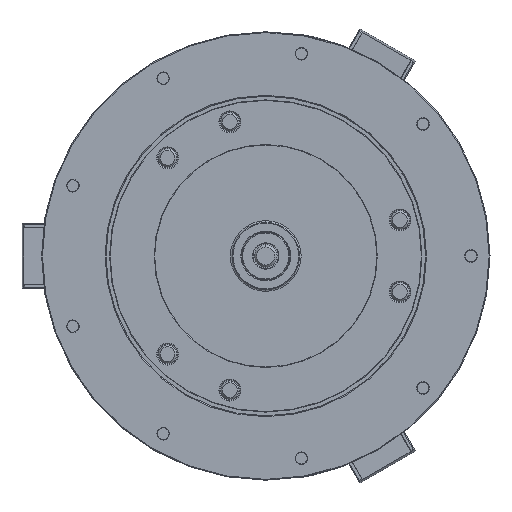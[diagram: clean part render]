
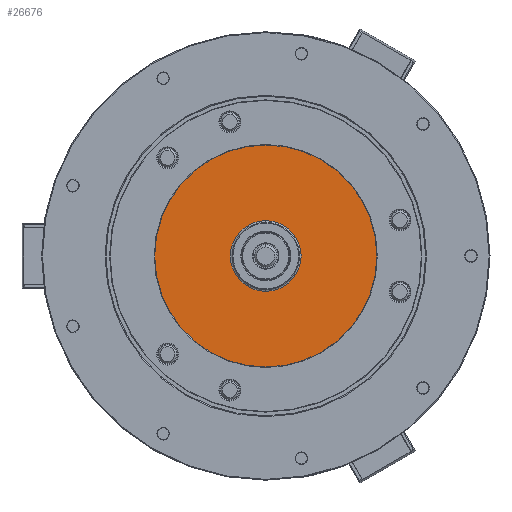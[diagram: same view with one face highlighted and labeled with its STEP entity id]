
A CAD part, left-side view. The second image highlights one B-rep face of the part: STEP entity #26676.
In plain terms, the highlighted planar face has unit normal (-1, 0, 0).
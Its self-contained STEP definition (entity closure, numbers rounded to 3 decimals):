
#5478 = FACE_BOUND ( 'NONE', #36884, .T. ) ;
#13541 = CIRCLE ( 'NONE', #75408, 132. ) ;
#13950 = DIRECTION ( 'NONE',  ( 0., 0., -1. ) ) ;
#14689 = EDGE_CURVE ( 'NONE', #31009, #15819, #63132, .T. ) ;
#15819 = VERTEX_POINT ( 'NONE', #79338 ) ;
#18686 = ORIENTED_EDGE ( 'NONE', *, *, #85949, .T. ) ;
#19342 = DIRECTION ( 'NONE',  ( 0., 0., -1. ) ) ;
#23620 = CARTESIAN_POINT ( 'NONE',  ( -111.5, 0., 0. ) ) ;
#24239 = CARTESIAN_POINT ( 'NONE',  ( -111.5, -42., 0. ) ) ;
#26025 = CARTESIAN_POINT ( 'NONE',  ( -111.5, 0., 0. ) ) ;
#26676 = ADVANCED_FACE ( 'NONE', ( #48751, #5478 ), #41350, .F. ) ;
#31009 = VERTEX_POINT ( 'NONE', #54122 ) ;
#32788 = DIRECTION ( 'NONE',  ( 1., 0., 0. ) ) ;
#35940 = AXIS2_PLACEMENT_3D ( 'NONE', #55161, #105913, #19342 ) ;
#36043 = ORIENTED_EDGE ( 'NONE', *, *, #14689, .T. ) ;
#36884 = EDGE_LOOP ( 'NONE', ( #36043, #18686 ) ) ;
#39071 = EDGE_CURVE ( 'NONE', #72474, #39500, #13541, .T. ) ;
#39500 = VERTEX_POINT ( 'NONE', #54828 ) ;
#40963 = CIRCLE ( 'NONE', #111881, 132. ) ;
#41350 = PLANE ( 'NONE',  #77237 ) ;
#44806 = DIRECTION ( 'NONE',  ( 0., 0., -1. ) ) ;
#48751 = FACE_OUTER_BOUND ( 'NONE', #81896, .T. ) ;
#49787 = ORIENTED_EDGE ( 'NONE', *, *, #39071, .F. ) ;
#52524 = AXIS2_PLACEMENT_3D ( 'NONE', #70875, #105655, #53769 ) ;
#53769 = DIRECTION ( 'NONE',  ( 0., 0., -1. ) ) ;
#54122 = CARTESIAN_POINT ( 'NONE',  ( -111.5, 0., -42. ) ) ;
#54828 = CARTESIAN_POINT ( 'NONE',  ( -111.5, 0., 132. ) ) ;
#55161 = CARTESIAN_POINT ( 'NONE',  ( -111.5, 0., 0. ) ) ;
#63132 = CIRCLE ( 'NONE', #35940, 42. ) ;
#70875 = CARTESIAN_POINT ( 'NONE',  ( -111.5, 0., 0. ) ) ;
#72474 = VERTEX_POINT ( 'NONE', #72845 ) ;
#72845 = CARTESIAN_POINT ( 'NONE',  ( -111.5, 0., -132. ) ) ;
#75408 = AXIS2_PLACEMENT_3D ( 'NONE', #26025, #97183, #44806 ) ;
#77237 = AXIS2_PLACEMENT_3D ( 'NONE', #24239, #32788, #93748 ) ;
#79338 = CARTESIAN_POINT ( 'NONE',  ( -111.5, 0., 42. ) ) ;
#81896 = EDGE_LOOP ( 'NONE', ( #93016, #49787 ) ) ;
#85949 = EDGE_CURVE ( 'NONE', #15819, #31009, #90699, .T. ) ;
#90699 = CIRCLE ( 'NONE', #52524, 42. ) ;
#93016 = ORIENTED_EDGE ( 'NONE', *, *, #108310, .F. ) ;
#93107 = DIRECTION ( 'NONE',  ( 1., 0., 0. ) ) ;
#93748 = DIRECTION ( 'NONE',  ( 0., 0., -1. ) ) ;
#97183 = DIRECTION ( 'NONE',  ( 1., 0., 0. ) ) ;
#105655 = DIRECTION ( 'NONE',  ( 1., 0., 0. ) ) ;
#105913 = DIRECTION ( 'NONE',  ( 1., 0., 0. ) ) ;
#108310 = EDGE_CURVE ( 'NONE', #39500, #72474, #40963, .T. ) ;
#111881 = AXIS2_PLACEMENT_3D ( 'NONE', #23620, #93107, #13950 ) ;
